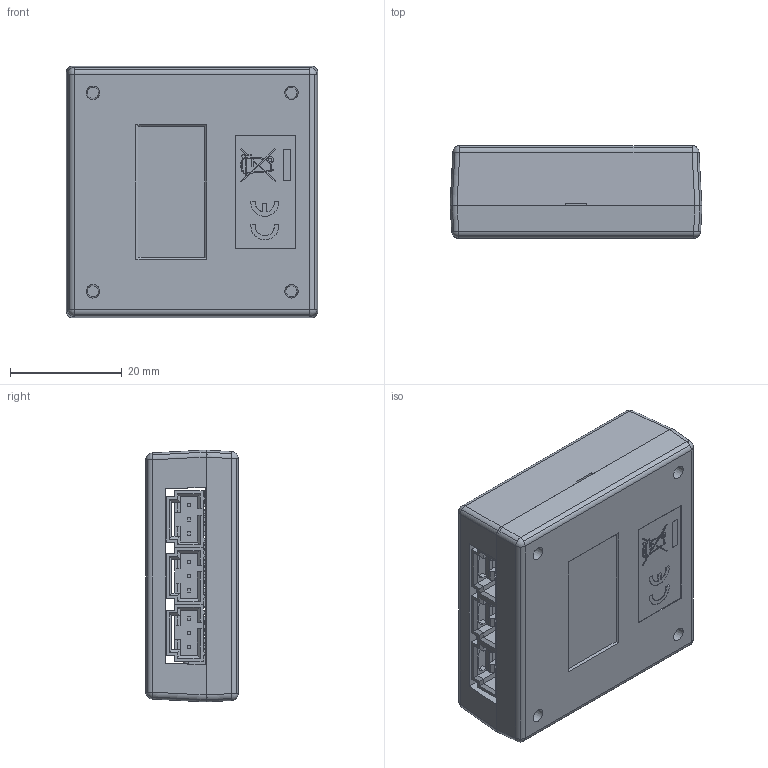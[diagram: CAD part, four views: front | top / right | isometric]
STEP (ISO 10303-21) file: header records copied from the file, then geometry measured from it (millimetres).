
FILE_DESCRIPTION(/* description */ ('Alibre Inc.'),/* implementation_level */ '2;1');
FILE_NAME(/* name */ 'export-786B8FB3-3E26-4F7C-8E9A-90FF7EED2778',/* time_stamp */ '2023-04-12T13:53:11-06:00',/* author */ (''),/* organization */ (''),/* preprocessor_version */ 'ST-DEVELOPER v17',/* originating_system */ 'Alibre',/* authorisation */ '');
FILE_SCHEMA (('CONFIG_CONTROL_DESIGN'));
Length unit declared in the file: centimetre
Products named in the file (142): 5849554688; 5849554880; R12; 5849554496; 5849554304; R18; 5849552960; 5849553152; C27; C24; C13; C12; User_Library-SOT-23-5; U5; U2; C36; C34; R17; R28; R26; R23; R21; R19; 5849553728; 5849553536; FB5; 5849553920; L10; FB4; L8; FB3; L6; RV5; RV4; RV3; C30; C23; C21; C6; C4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
Bounding box: 45.13 x 16.52 x 45.11 mm (x, y, z)
Volume: 14615.4 mm3; surface area: 22606.1 mm2
Topology: 197 solids, 197 shells, 3083 faces, 7526 edges, 4858 vertices
Faces by surface type: plane 2535, cylinder 398, bspline 122, cone 14, sphere 10, torus 4
Full cylindrical faces by diameter (mm): 0.6 x1, 0.965 x18, 1 x2, 3.099 x4, 3.175 x4
Entity records: 64873 total; most frequent: CARTESIAN_POINT 12858, ORIENTED_EDGE 7128, DIRECTION 6438, EDGE_CURVE 3564, VECTOR 2648, LINE 2648, AXIS2_PLACEMENT_3D 2374, VERTEX_POINT 2281
